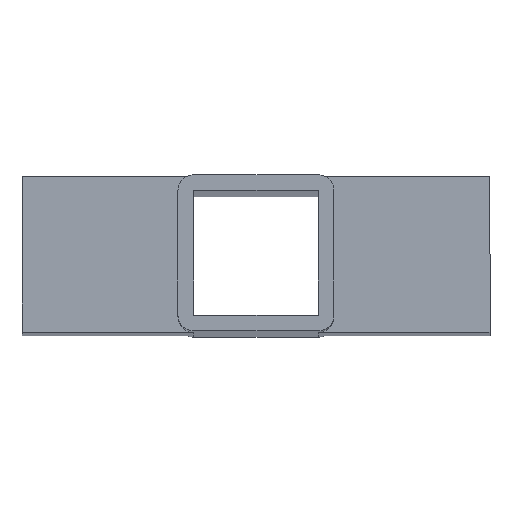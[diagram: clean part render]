
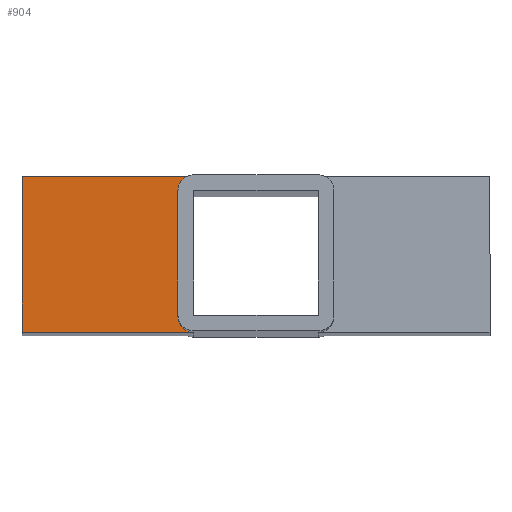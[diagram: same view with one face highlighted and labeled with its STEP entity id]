
A CAD part, top view. The second image highlights one B-rep face of the part: STEP entity #904.
In plain terms, the highlighted planar face has unit normal (0, 0, 1).
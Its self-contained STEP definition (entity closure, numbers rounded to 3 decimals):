
#5 = CARTESIAN_POINT ( 'NONE',  ( -15., -12., 200. ) ) ;
#29 = ORIENTED_EDGE ( 'NONE', *, *, #840, .F. ) ;
#36 = VECTOR ( 'NONE', #188, 1000. ) ;
#49 = LINE ( 'NONE', #941, #36 ) ;
#59 = AXIS2_PLACEMENT_3D ( 'NONE', #1059, #886, #1021 ) ;
#76 = AXIS2_PLACEMENT_3D ( 'NONE', #288, #271, #186 ) ;
#88 = DIRECTION ( 'NONE',  ( 0., 0., 1. ) ) ;
#93 = CARTESIAN_POINT ( 'NONE',  ( -12., -15., 200. ) ) ;
#98 = DIRECTION ( 'NONE',  ( 1., 0., 0. ) ) ;
#150 = CARTESIAN_POINT ( 'NONE',  ( -12., 15., 200. ) ) ;
#186 = DIRECTION ( 'NONE',  ( 1., 0., 0. ) ) ;
#188 = DIRECTION ( 'NONE',  ( -1., 0., 0. ) ) ;
#264 = PLANE ( 'NONE',  #638 ) ;
#271 = DIRECTION ( 'NONE',  ( 0., 0., 1. ) ) ;
#276 = ORIENTED_EDGE ( 'NONE', *, *, #819, .F. ) ;
#288 = CARTESIAN_POINT ( 'NONE',  ( -12., 12., 200. ) ) ;
#296 = VERTEX_POINT ( 'NONE', #644 ) ;
#299 = CARTESIAN_POINT ( 'NONE',  ( 0., 15., 200. ) ) ;
#310 = EDGE_LOOP ( 'NONE', ( #1100, #625, #547, #276, #1204, #29 ) ) ;
#320 = VECTOR ( 'NONE', #512, 1000. ) ;
#339 = EDGE_CURVE ( 'NONE', #603, #296, #795, .T. ) ;
#348 = VECTOR ( 'NONE', #374, 1000. ) ;
#374 = DIRECTION ( 'NONE',  ( 0., -1., 0. ) ) ;
#448 = VERTEX_POINT ( 'NONE', #5 ) ;
#453 = CARTESIAN_POINT ( 'NONE',  ( -45., -15., 200. ) ) ;
#486 = DIRECTION ( 'NONE',  ( 1., 0., 0. ) ) ;
#512 = DIRECTION ( 'NONE',  ( 0., 1., 0. ) ) ;
#515 = EDGE_CURVE ( 'NONE', #448, #883, #667, .T. ) ;
#516 = VERTEX_POINT ( 'NONE', #453 ) ;
#547 = ORIENTED_EDGE ( 'NONE', *, *, #784, .F. ) ;
#556 = VERTEX_POINT ( 'NONE', #827 ) ;
#603 = VERTEX_POINT ( 'NONE', #150 ) ;
#625 = ORIENTED_EDGE ( 'NONE', *, *, #1017, .F. ) ;
#638 = AXIS2_PLACEMENT_3D ( 'NONE', #652, #88, #98 ) ;
#644 = CARTESIAN_POINT ( 'NONE',  ( -15., 12., 200. ) ) ;
#652 = CARTESIAN_POINT ( 'NONE',  ( 0., 0., 200. ) ) ;
#667 = CIRCLE ( 'NONE', #59, 3. ) ;
#784 = EDGE_CURVE ( 'NONE', #516, #556, #1005, .T. ) ;
#795 = CIRCLE ( 'NONE', #76, 3. ) ;
#797 = CARTESIAN_POINT ( 'NONE',  ( -45., 0., 200. ) ) ;
#819 = EDGE_CURVE ( 'NONE', #883, #516, #49, .T. ) ;
#827 = CARTESIAN_POINT ( 'NONE',  ( -45., 15., 200. ) ) ;
#840 = EDGE_CURVE ( 'NONE', #296, #448, #894, .T. ) ;
#883 = VERTEX_POINT ( 'NONE', #93 ) ;
#886 = DIRECTION ( 'NONE',  ( 0., 0., 1. ) ) ;
#894 = LINE ( 'NONE', #945, #348 ) ;
#904 = ADVANCED_FACE ( 'NONE', ( #1108 ), #264, .T. ) ;
#941 = CARTESIAN_POINT ( 'NONE',  ( 0., -15., 200. ) ) ;
#945 = CARTESIAN_POINT ( 'NONE',  ( -15., 0., 200. ) ) ;
#1005 = LINE ( 'NONE', #797, #320 ) ;
#1017 = EDGE_CURVE ( 'NONE', #556, #603, #1184, .T. ) ;
#1021 = DIRECTION ( 'NONE',  ( 1., 0., 0. ) ) ;
#1059 = CARTESIAN_POINT ( 'NONE',  ( -12., -12., 200. ) ) ;
#1100 = ORIENTED_EDGE ( 'NONE', *, *, #339, .F. ) ;
#1108 = FACE_OUTER_BOUND ( 'NONE', #310, .T. ) ;
#1137 = VECTOR ( 'NONE', #486, 1000. ) ;
#1184 = LINE ( 'NONE', #299, #1137 ) ;
#1204 = ORIENTED_EDGE ( 'NONE', *, *, #515, .F. ) ;
